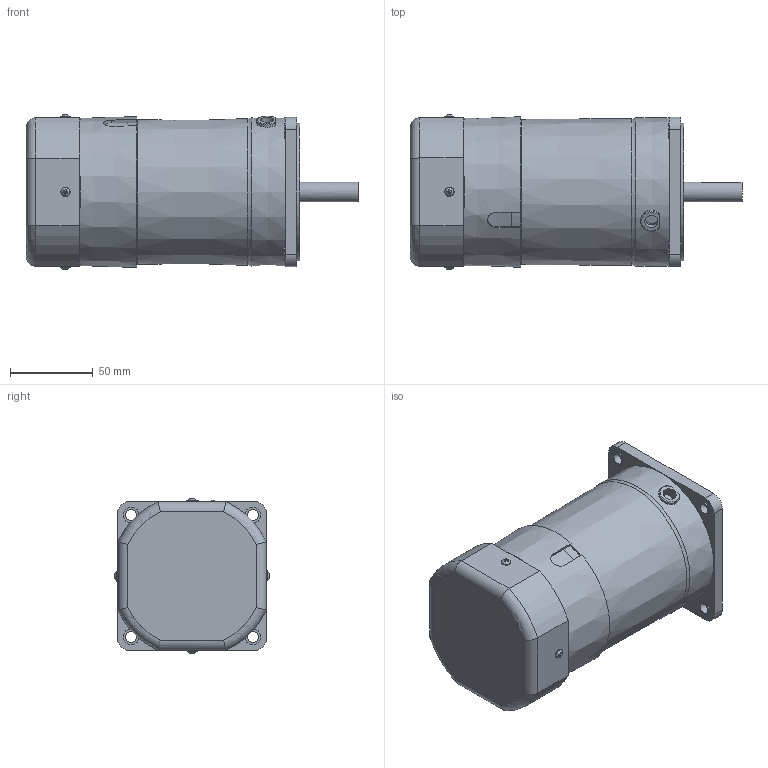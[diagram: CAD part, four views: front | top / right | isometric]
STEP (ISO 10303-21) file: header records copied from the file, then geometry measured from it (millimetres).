
FILE_DESCRIPTION((''),'2;1');
FILE_NAME('D:\김성묵\업무폴더\개발 파일\프로젝트 개발 AB등급\AC표준형 개발자료\90각 이하 표준형 개발\도면작성 자료\3D 도면\홈페이지용 3D 파일\60W MOTOR\BLACK TYPE\S9I60K-E.stp','2015-03-26T13:19:31',('smkim'),(''),'Autodesk Inventor 2012','Autodesk Inventor 2012','');
FILE_SCHEMA(('AUTOMOTIVE_DESIGN { 1 0 10303 214 1 1 1 1 }'));
Length unit declared in the file: millimetre
Products named in the file (7): S9I60K-E; S9I60GㅁCE; 6_CORD BUSH; 552300620; FAN COVER; S9I60K; 60W 전자BK COVER
Assembly tree (9 placements, depth 2):
  S9I60K-E
    S9I60GㅁCE
    6_CORD BUSH
    552300620  x4
    FAN COVER
    S9I60K
    60W 전자BK COVER
Bounding box: 200.3 x 93.49 x 93.49 mm (x, y, z)
Volume: 1174820.5 mm3; surface area: 117187.6 mm2
Topology: 9 solids, 10 shells, 245 faces, 573 edges, 372 vertices
Faces by surface type: plane 151, cylinder 62, cone 14, torus 14, bspline 4
Full cylindrical faces by diameter (mm): 3 x8, 3.5 x4, 5.6 x4, 6.5 x4, 8 x1, 9.5 x4, 10 x1, 12 x1, 28 x1, 34 x1, 40 x1, 60 x1, 66 x1, 80 x1, 83 x1, 86 x2, 86.3 x1
Entity records: 5529 total; most frequent: CARTESIAN_POINT 1317, DIRECTION 853, ORIENTED_EDGE 738, EDGE_CURVE 369, AXIS2_PLACEMENT_3D 334, VERTEX_POINT 268, EDGE_LOOP 265, VECTOR 185
